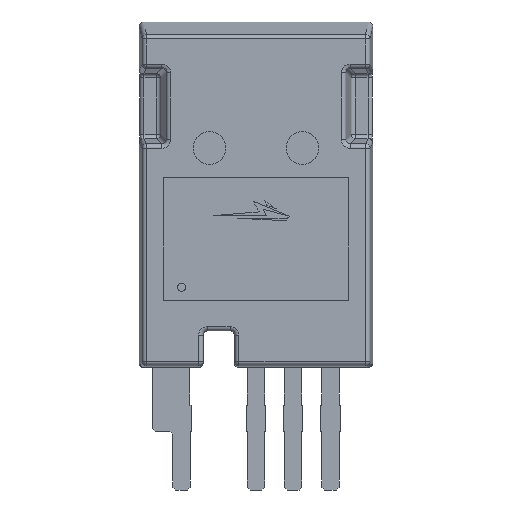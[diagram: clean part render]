
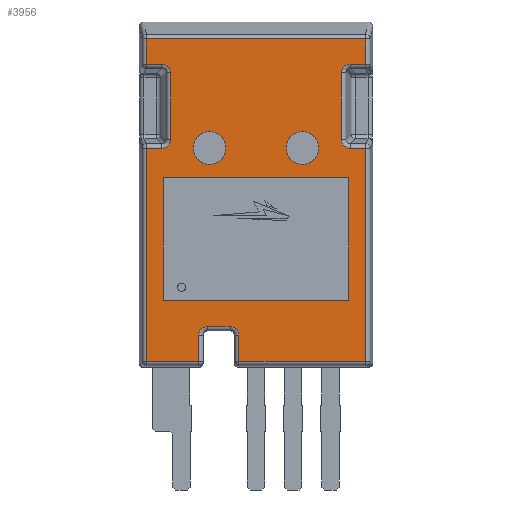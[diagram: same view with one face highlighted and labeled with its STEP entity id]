
A CAD part, left-side view. The second image highlights one B-rep face of the part: STEP entity #3956.
In plain terms, the highlighted planar face has unit normal (-1, 0, 0).
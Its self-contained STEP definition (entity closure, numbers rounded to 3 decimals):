
#67=FACE_BOUND('',#656,.T.);
#68=FACE_BOUND('',#657,.T.);
#69=FACE_BOUND('',#658,.T.);
#103=ELLIPSE('',#4215,0.612,0.6);
#105=ELLIPSE('',#4220,0.612,0.6);
#107=ELLIPSE('',#4245,0.612,0.6);
#109=ELLIPSE('',#4250,0.612,0.6);
#179=PLANE('',#4311);
#404=FACE_OUTER_BOUND('',#655,.T.);
#655=EDGE_LOOP('',(#2967,#2968,#2969,#2970,#2971,#2972,#2973,#2974,#2975,
#2976,#2977,#2978,#2979,#2980,#2981,#2982,#2983,#2984,#2985,#2986,#2987,
#2988));
#656=EDGE_LOOP('',(#2989));
#657=EDGE_LOOP('',(#2990,#2991,#2992,#2993));
#658=EDGE_LOOP('',(#2994));
#877=LINE('',#5860,#1278);
#879=LINE('',#5868,#1280);
#882=LINE('',#5907,#1283);
#884=LINE('',#5943,#1285);
#885=LINE('',#5950,#1286);
#887=LINE('',#5960,#1288);
#889=LINE('',#5970,#1290);
#891=LINE('',#5980,#1292);
#894=LINE('',#6019,#1295);
#896=LINE('',#6055,#1297);
#897=LINE('',#6062,#1298);
#899=LINE('',#6072,#1300);
#901=LINE('',#6082,#1302);
#903=LINE('',#6092,#1304);
#905=LINE('',#6104,#1306);
#906=LINE('',#6110,#1307);
#929=LINE('',#6187,#1330);
#930=LINE('',#6189,#1331);
#931=LINE('',#6191,#1332);
#932=LINE('',#6192,#1333);
#1278=VECTOR('',#4681,14.561);
#1280=VECTOR('',#4689,1.048);
#1283=VECTOR('',#4704,4.562);
#1285=VECTOR('',#4716,1.048);
#1286=VECTOR('',#4725,1.709);
#1288=VECTOR('',#4737,14.963);
#1290=VECTOR('',#4749,1.709);
#1292=VECTOR('',#4761,1.048);
#1295=VECTOR('',#4776,4.562);
#1297=VECTOR('',#4788,1.048);
#1298=VECTOR('',#4797,14.561);
#1300=VECTOR('',#4809,8.652);
#1302=VECTOR('',#4823,1.781);
#1304=VECTOR('',#4835,1.539);
#1306=VECTOR('',#4849,1.781);
#1307=VECTOR('',#4858,3.572);
#1330=VECTOR('',#4941,12.7);
#1331=VECTOR('',#4942,8.38);
#1332=VECTOR('',#4943,12.7);
#1333=VECTOR('',#4944,8.38);
#1706=CIRCLE('',#4270,0.6);
#1710=CIRCLE('',#4276,0.6);
#1720=CIRCLE('',#4312,1.117);
#1721=CIRCLE('',#4313,1.117);
#1793=VERTEX_POINT('',#5857);
#1794=VERTEX_POINT('',#5859);
#1797=VERTEX_POINT('',#5867);
#1799=VERTEX_POINT('',#5897);
#1801=VERTEX_POINT('',#5903);
#1803=VERTEX_POINT('',#5933);
#1805=VERTEX_POINT('',#5939);
#1808=VERTEX_POINT('',#5949);
#1811=VERTEX_POINT('',#5959);
#1814=VERTEX_POINT('',#5969);
#1817=VERTEX_POINT('',#5979);
#1819=VERTEX_POINT('',#6009);
#1821=VERTEX_POINT('',#6015);
#1823=VERTEX_POINT('',#6045);
#1825=VERTEX_POINT('',#6051);
#1828=VERTEX_POINT('',#6061);
#1831=VERTEX_POINT('',#6071);
#1833=VERTEX_POINT('',#6079);
#1834=VERTEX_POINT('',#6084);
#1835=VERTEX_POINT('',#6088);
#1837=VERTEX_POINT('',#6094);
#1839=VERTEX_POINT('',#6100);
#1859=VERTEX_POINT('',#6183);
#1860=VERTEX_POINT('',#6185);
#1861=VERTEX_POINT('',#6186);
#1862=VERTEX_POINT('',#6188);
#1863=VERTEX_POINT('',#6190);
#1864=VERTEX_POINT('',#6193);
#2173=EDGE_CURVE('',#1793,#1794,#877,.T.);
#2177=EDGE_CURVE('',#1794,#1797,#879,.T.);
#2182=EDGE_CURVE('',#1797,#1799,#103,.T.);
#2185=EDGE_CURVE('',#1799,#1801,#882,.T.);
#2188=EDGE_CURVE('',#1801,#1803,#105,.T.);
#2191=EDGE_CURVE('',#1803,#1805,#884,.T.);
#2194=EDGE_CURVE('',#1805,#1808,#885,.T.);
#2199=EDGE_CURVE('',#1808,#1811,#887,.T.);
#2204=EDGE_CURVE('',#1811,#1814,#889,.T.);
#2209=EDGE_CURVE('',#1814,#1817,#891,.T.);
#2214=EDGE_CURVE('',#1817,#1819,#107,.T.);
#2217=EDGE_CURVE('',#1819,#1821,#894,.T.);
#2220=EDGE_CURVE('',#1821,#1823,#109,.T.);
#2223=EDGE_CURVE('',#1823,#1825,#896,.T.);
#2226=EDGE_CURVE('',#1825,#1828,#897,.T.);
#2231=EDGE_CURVE('',#1828,#1831,#899,.T.);
#2237=EDGE_CURVE('',#1831,#1833,#901,.T.);
#2239=EDGE_CURVE('',#1833,#1834,#1706,.T.);
#2242=EDGE_CURVE('',#1834,#1835,#903,.T.);
#2245=EDGE_CURVE('',#1835,#1837,#1710,.T.);
#2248=EDGE_CURVE('',#1837,#1839,#905,.T.);
#2251=EDGE_CURVE('',#1839,#1793,#906,.T.);
#2287=EDGE_CURVE('',#1859,#1859,#1720,.T.);
#2288=EDGE_CURVE('',#1860,#1861,#929,.T.);
#2289=EDGE_CURVE('',#1861,#1862,#930,.T.);
#2290=EDGE_CURVE('',#1862,#1863,#931,.T.);
#2291=EDGE_CURVE('',#1863,#1860,#932,.T.);
#2292=EDGE_CURVE('',#1864,#1864,#1721,.T.);
#2967=ORIENTED_EDGE('',*,*,#2173,.F.);
#2968=ORIENTED_EDGE('',*,*,#2251,.F.);
#2969=ORIENTED_EDGE('',*,*,#2248,.F.);
#2970=ORIENTED_EDGE('',*,*,#2245,.F.);
#2971=ORIENTED_EDGE('',*,*,#2242,.F.);
#2972=ORIENTED_EDGE('',*,*,#2239,.F.);
#2973=ORIENTED_EDGE('',*,*,#2237,.F.);
#2974=ORIENTED_EDGE('',*,*,#2231,.F.);
#2975=ORIENTED_EDGE('',*,*,#2226,.F.);
#2976=ORIENTED_EDGE('',*,*,#2223,.F.);
#2977=ORIENTED_EDGE('',*,*,#2220,.F.);
#2978=ORIENTED_EDGE('',*,*,#2217,.F.);
#2979=ORIENTED_EDGE('',*,*,#2214,.F.);
#2980=ORIENTED_EDGE('',*,*,#2209,.F.);
#2981=ORIENTED_EDGE('',*,*,#2204,.F.);
#2982=ORIENTED_EDGE('',*,*,#2199,.F.);
#2983=ORIENTED_EDGE('',*,*,#2194,.F.);
#2984=ORIENTED_EDGE('',*,*,#2191,.F.);
#2985=ORIENTED_EDGE('',*,*,#2188,.F.);
#2986=ORIENTED_EDGE('',*,*,#2185,.F.);
#2987=ORIENTED_EDGE('',*,*,#2182,.F.);
#2988=ORIENTED_EDGE('',*,*,#2177,.F.);
#2989=ORIENTED_EDGE('',*,*,#2287,.T.);
#2990=ORIENTED_EDGE('',*,*,#2288,.T.);
#2991=ORIENTED_EDGE('',*,*,#2289,.T.);
#2992=ORIENTED_EDGE('',*,*,#2290,.T.);
#2993=ORIENTED_EDGE('',*,*,#2291,.T.);
#2994=ORIENTED_EDGE('',*,*,#2292,.T.);
#3956=ADVANCED_FACE('',(#404,#67,#68,#69),#179,.T.);
#4215=AXIS2_PLACEMENT_3D('',#5901,#4697,#4698);
#4220=AXIS2_PLACEMENT_3D('',#5937,#4709,#4710);
#4245=AXIS2_PLACEMENT_3D('',#6013,#4769,#4770);
#4250=AXIS2_PLACEMENT_3D('',#6049,#4781,#4782);
#4270=AXIS2_PLACEMENT_3D('',#6086,#4828,#4829);
#4276=AXIS2_PLACEMENT_3D('',#6098,#4842,#4843);
#4311=AXIS2_PLACEMENT_3D('',#6182,#4937,#4938);
#4312=AXIS2_PLACEMENT_3D('',#6184,#4939,#4940);
#4313=AXIS2_PLACEMENT_3D('',#6194,#4945,#4946);
#4681=DIRECTION('',(0.,0.,1.));
#4689=DIRECTION('',(0.,-1.,0.));
#4697=DIRECTION('center_axis',(-1.,0.,0.));
#4698=DIRECTION('ref_axis',(0.,-0.707,-0.707));
#4704=DIRECTION('',(0.,0.,1.));
#4709=DIRECTION('center_axis',(-1.,0.,0.));
#4710=DIRECTION('ref_axis',(0.,-0.707,0.707));
#4716=DIRECTION('',(0.,1.,0.));
#4725=DIRECTION('',(0.,0.,1.));
#4737=DIRECTION('',(0.,-1.,0.));
#4749=DIRECTION('',(0.,0.,-1.));
#4761=DIRECTION('',(0.,1.,0.));
#4769=DIRECTION('center_axis',(-1.,0.,0.));
#4770=DIRECTION('ref_axis',(0.,0.707,0.707));
#4776=DIRECTION('',(0.,0.,-1.));
#4781=DIRECTION('center_axis',(-1.,0.,0.));
#4782=DIRECTION('ref_axis',(0.,0.707,-0.707));
#4788=DIRECTION('',(0.,-1.,0.));
#4797=DIRECTION('',(0.,0.,-1.));
#4809=DIRECTION('',(0.,1.,0.));
#4823=DIRECTION('',(0.,0.,1.));
#4828=DIRECTION('center_axis',(-1.,0.,0.));
#4829=DIRECTION('ref_axis',(0.,-0.707,0.707));
#4835=DIRECTION('',(0.,1.,0.));
#4842=DIRECTION('center_axis',(-1.,0.,0.));
#4843=DIRECTION('ref_axis',(0.,0.707,0.707));
#4849=DIRECTION('',(0.,0.,-1.));
#4858=DIRECTION('',(0.,1.,0.));
#4937=DIRECTION('center_axis',(-1.,0.,0.));
#4938=DIRECTION('ref_axis',(0.,-1.,0.));
#4939=DIRECTION('center_axis',(1.,0.,0.));
#4940=DIRECTION('ref_axis',(0.,0.,-1.));
#4941=DIRECTION('',(0.,-1.,0.));
#4942=DIRECTION('',(0.,0.,-1.));
#4943=DIRECTION('',(0.,1.,0.));
#4944=DIRECTION('',(0.,0.,1.));
#4945=DIRECTION('center_axis',(1.,0.,0.));
#4946=DIRECTION('ref_axis',(0.,0.,-1.));
#5857=CARTESIAN_POINT('',(-2.51,7.482,4.789));
#5859=CARTESIAN_POINT('',(-2.51,7.482,19.35));
#5860=CARTESIAN_POINT('',(-2.51,7.482,0.));
#5867=CARTESIAN_POINT('',(-2.51,6.434,19.35));
#5868=CARTESIAN_POINT('',(-2.51,7.608,19.35));
#5897=CARTESIAN_POINT('',(-2.51,5.84,19.944));
#5901=CARTESIAN_POINT('Origin',(-2.51,6.446,19.956));
#5903=CARTESIAN_POINT('',(-2.51,5.84,24.506));
#5907=CARTESIAN_POINT('',(-2.51,5.84,6.105));
#5933=CARTESIAN_POINT('',(-2.51,6.434,25.1));
#5937=CARTESIAN_POINT('Origin',(-2.51,6.446,24.494));
#5939=CARTESIAN_POINT('',(-2.51,7.482,25.1));
#5943=CARTESIAN_POINT('',(-2.51,8.333,25.1));
#5949=CARTESIAN_POINT('',(-2.51,7.482,26.809));
#5950=CARTESIAN_POINT('',(-2.51,7.482,0.));
#5959=CARTESIAN_POINT('',(-2.51,-7.482,26.809));
#5960=CARTESIAN_POINT('',(-2.51,5.978,26.809));
#5969=CARTESIAN_POINT('',(-2.51,-7.482,25.1));
#5970=CARTESIAN_POINT('',(-2.51,-7.482,0.));
#5979=CARTESIAN_POINT('',(-2.51,-6.434,25.1));
#5980=CARTESIAN_POINT('',(-2.51,4.348,25.1));
#6009=CARTESIAN_POINT('',(-2.51,-5.84,24.506));
#6013=CARTESIAN_POINT('Origin',(-2.51,-6.446,24.494));
#6015=CARTESIAN_POINT('',(-2.51,-5.84,19.944));
#6019=CARTESIAN_POINT('',(-2.51,-5.84,5.008));
#6045=CARTESIAN_POINT('',(-2.51,-6.434,19.35));
#6049=CARTESIAN_POINT('Origin',(-2.51,-6.446,19.956));
#6051=CARTESIAN_POINT('',(-2.51,-7.482,19.35));
#6055=CARTESIAN_POINT('',(-2.51,3.623,19.35));
#6061=CARTESIAN_POINT('',(-2.51,-7.482,4.789));
#6062=CARTESIAN_POINT('',(-2.51,-7.482,0.));
#6071=CARTESIAN_POINT('',(-2.51,1.17,4.789));
#6072=CARTESIAN_POINT('',(-2.51,8.7,4.789));
#6079=CARTESIAN_POINT('',(-2.51,1.17,6.57));
#6082=CARTESIAN_POINT('',(-2.51,1.17,0.935));
#6084=CARTESIAN_POINT('',(-2.51,1.77,7.17));
#6086=CARTESIAN_POINT('Origin',(-2.51,1.77,6.57));
#6088=CARTESIAN_POINT('',(-2.51,3.31,7.17));
#6092=CARTESIAN_POINT('',(-2.51,4.72,7.17));
#6094=CARTESIAN_POINT('',(-2.51,3.91,6.57));
#6098=CARTESIAN_POINT('Origin',(-2.51,3.31,6.57));
#6100=CARTESIAN_POINT('',(-2.51,3.91,4.789));
#6104=CARTESIAN_POINT('',(-2.51,3.91,3.435));
#6110=CARTESIAN_POINT('',(-2.51,8.7,4.789));
#6182=CARTESIAN_POINT('Origin',(-2.51,7.97,0.));
#6183=CARTESIAN_POINT('',(-2.51,-3.175,20.483));
#6184=CARTESIAN_POINT('Origin',(-2.51,-3.175,19.366));
#6185=CARTESIAN_POINT('',(-2.51,6.35,17.339));
#6186=CARTESIAN_POINT('',(-2.51,-6.35,17.339));
#6187=CARTESIAN_POINT('',(-2.51,7.16,17.339));
#6188=CARTESIAN_POINT('',(-2.51,-6.35,8.959));
#6189=CARTESIAN_POINT('',(-2.51,-6.35,8.67));
#6190=CARTESIAN_POINT('',(-2.51,6.35,8.959));
#6191=CARTESIAN_POINT('',(-2.51,0.81,8.959));
#6192=CARTESIAN_POINT('',(-2.51,6.35,4.48));
#6193=CARTESIAN_POINT('',(-2.51,3.175,20.483));
#6194=CARTESIAN_POINT('Origin',(-2.51,3.175,19.366));
